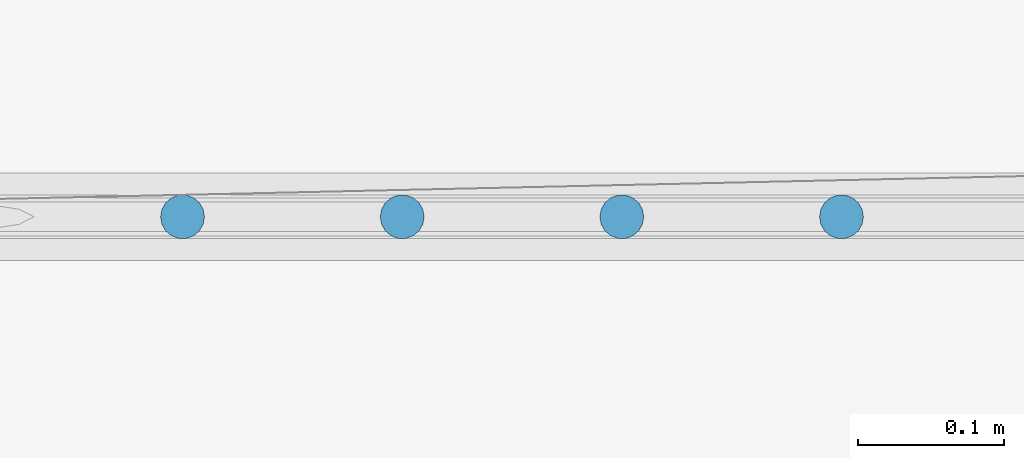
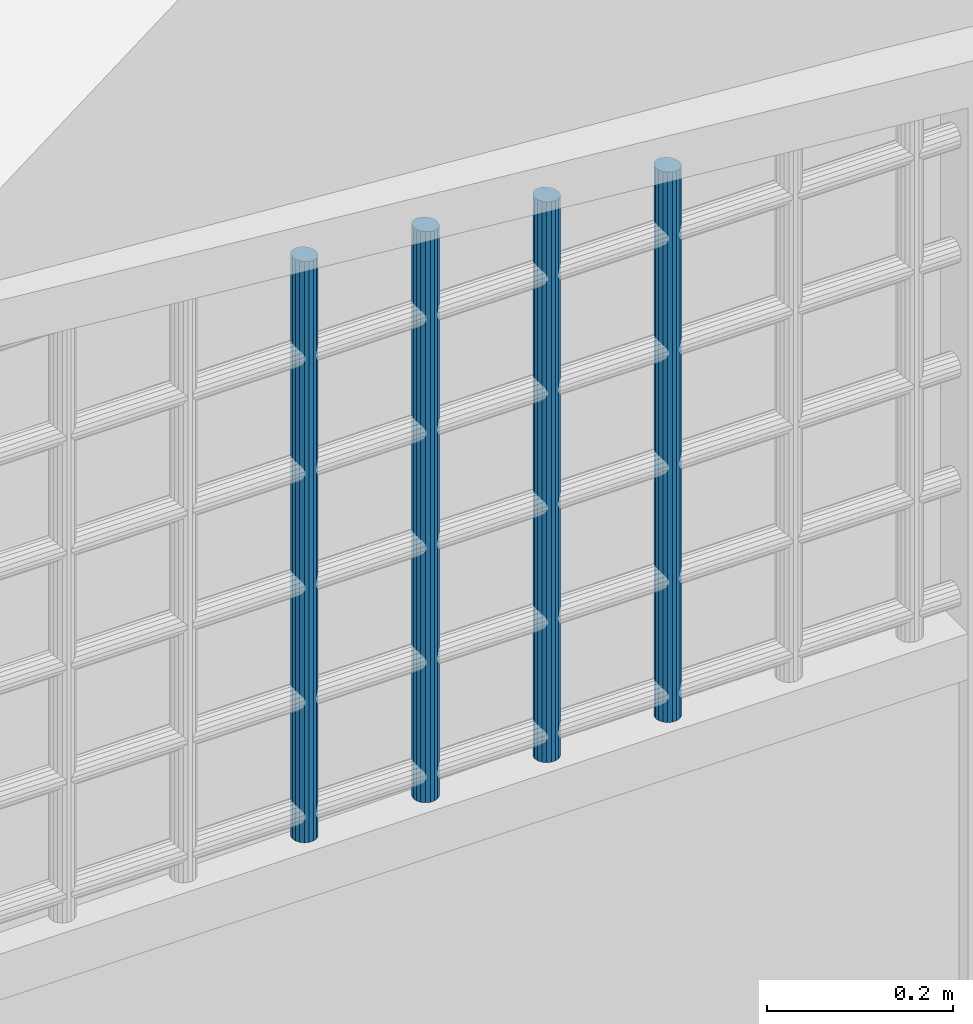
# One storey, part 57 of 133: 4 members, 1 element without a shape of its own.
"""IFC2X3 building model written with IfcOpenShell, lengths in centimetres."""

import ifcopenshell
import ifcopenshell.guid

model = None  # the IFC model being written
_history = None  # IfcOwnerHistory: only IFC2X3 demands one
_inside = {}  # id of a spatial element -> (the spatial element, [elements in it])
_under = {}  # id of a project, library or spatial element -> (it, [spatial elements below it])
_declared = {}  # id of a project -> (the project, [libraries it declares])
_typed = {}  # id of a type object -> (the type object, [elements of that type])
_made_of = {}  # id of a material, layer set ... -> (it, [elements and type objects made of it])


def new_model(schema):
    """Start an empty IFC model of exactly this schema.

    Asked for "IFC4X3", IfcOpenShell would pick the latest addendum, in which some entities
    have other attributes; the version numbers below select the first issue.
    IFC2X3 requires an IfcOwnerHistory on every rooted entity: one is made here for all.
    """
    global model, _history
    if schema == "IFC4X3":
        model = ifcopenshell.file(schema_version=(4, 3, 0, 0))
    else:
        model = ifcopenshell.file(schema=schema)
    _inside.clear()
    _under.clear()
    _declared.clear()
    _typed.clear()
    _made_of.clear()
    _history = None
    if model.schema == "IFC2X3":
        org = make("IfcOrganization", Name="unknown")
        user = make(
            "IfcPersonAndOrganization",
            ThePerson=make("IfcPerson", FamilyName="unknown"),
            TheOrganization=org,
        )
        app = make(
            "IfcApplication",
            ApplicationDeveloper=org,
            Version="unknown",
            ApplicationFullName="unknown",
            ApplicationIdentifier="unknown",
        )
        _history = make(
            "IfcOwnerHistory",
            OwningUser=user,
            OwningApplication=app,
            ChangeAction="ADDED",
            CreationDate=0,
        )
    return model


def make(cls, **values):
    """One entity of the class cls with the attributes given. An attribute that is None is left unset."""
    return model.create_entity(
        cls, **{name: value for name, value in values.items() if value is not None}
    )


def entity(cls, *values):
    """Any entity or typed value of the class cls, its attributes in the order of the schema. None: left unset."""
    e = model.create_entity(cls)
    for i, value in enumerate(values):
        if value is not None:
            e[i] = value
    return e


def rooted(cls, **values):
    """An entity with a GlobalId (a new one), such as an element, a storey or a relation."""
    return make(cls, GlobalId=ifcopenshell.guid.new(), OwnerHistory=_history, **values)


def si_unit(unit_type, name, prefix=None):
    """IfcSIUnit, for example si_unit("LENGTHUNIT", "METRE", prefix="MILLI")."""
    return make("IfcSIUnit", UnitType=unit_type, Prefix=prefix, Name=name)


def converted_unit(unit_type, name, factor, base, dimensions=None, offset=None):
    """IfcConversionBasedUnit, such as the inch: factor (a typed value) times the base unit."""
    return make(
        "IfcConversionBasedUnit"
        if offset is None
        else "IfcConversionBasedUnitWithOffset",
        ConversionOffset=offset,
        Dimensions=None
        if dimensions is None
        else entity("IfcDimensionalExponents", *dimensions),
        UnitType=unit_type,
        Name=name,
        ConversionFactor=make(
            "IfcMeasureWithUnit", ValueComponent=factor, UnitComponent=base
        ),
    )


def assignment(units):
    """IfcUnitAssignment: the units of a project."""
    return None if units is None else make("IfcUnitAssignment", Units=units)


def point(xyz):
    """IfcCartesianPoint."""
    return None if xyz is None else make("IfcCartesianPoint", Coordinates=xyz)


def direction(xyz):
    """IfcDirection."""
    return None if xyz is None else make("IfcDirection", DirectionRatios=xyz)


def frame(location, z_axis=None, x_axis=None):
    """IfcAxis2Placement3D, a coordinate frame: its origin and axes. An axis left out is left unset."""
    return make(
        "IfcAxis2Placement3D",
        Location=point(location),
        Axis=direction(z_axis),
        RefDirection=direction(x_axis),
    )


def origin():
    """The frame at (0, 0, 0) with its axes left unset."""
    return frame((0.0, 0.0, 0.0))


def origin_with_axes():
    """The frame at (0, 0, 0) with the z axis (0, 0, 1) and the x axis (1, 0, 0) written out."""
    return frame((0.0, 0.0, 0.0), z_axis=(0.0, 0.0, 1.0), x_axis=(1.0, 0.0, 0.0))


def place(relative_to, where):
    """IfcLocalPlacement: puts the frame where relative to a parent placement (None: the world)."""
    return make(
        "IfcLocalPlacement", PlacementRelTo=relative_to, RelativePlacement=where
    )


def context(
    kind, dimensions, precision=None, world=None, true_north=None, identifier=None
):
    """IfcGeometricRepresentationContext, for example the 3D "Model" context."""
    return make(
        "IfcGeometricRepresentationContext",
        ContextIdentifier=identifier,
        ContextType=kind,
        CoordinateSpaceDimension=dimensions,
        Precision=precision,
        WorldCoordinateSystem=world,
        TrueNorth=true_north,
    )


def subcontext(parent, identifier, kind, view, scale=None):
    """IfcGeometricRepresentationSubContext, for example "Body" below "Model"."""
    return make(
        "IfcGeometricRepresentationSubContext",
        ContextIdentifier=identifier,
        ContextType=kind,
        ParentContext=parent,
        TargetScale=scale,
        TargetView=view,
    )


def project(units=None, contexts=None):
    """IfcProject with its units and contexts."""
    return rooted(
        "IfcProject",
        Name="project",
        RepresentationContexts=contexts,
        UnitsInContext=assignment(units),
    )


def spatial(cls, under=None, at=None, **own):
    """A site, building, storey or space (cls), placed at a placement, below another one or the project."""
    s = rooted(cls, ObjectPlacement=at, **own)
    if under is not None:
        _under.setdefault(under.id(), (under, []))[1].append(s)
    return s


def faces_of(points, faces, orient=None, outer=None):
    """IfcFace entities. A face is a list of loops; a loop is a list of indices into points, from 0.

    orient and outer hold one flag for each loop. By default every Orientation is true, the
    first loop of a face is its IfcFaceOuterBound and the others are IfcFaceBound.
    """
    made = []
    for i, loops in enumerate(faces):
        bounds = []
        for j, loop in enumerate(loops):
            is_outer = j == 0 if outer is None else outer[i][j]
            bounds.append(
                make(
                    "IfcFaceOuterBound" if is_outer else "IfcFaceBound",
                    Bound=make("IfcPolyLoop", Polygon=[points[k] for k in loop]),
                    Orientation=True if orient is None else orient[i][j],
                )
            )
        made.append(make("IfcFace", Bounds=bounds))
    return made


def faceted_brep(points, faces, orient=None, outer=None, voids=None):
    """IfcFacetedBrep: a solid bounded by flat faces; with voids (closed shells), ...WithVoids."""
    shared = [point(p) for p in points]
    hull = make("IfcClosedShell", CfsFaces=faces_of(shared, faces, orient, outer))
    if voids is None:
        return make("IfcFacetedBrep", Outer=hull)
    return make(
        "IfcFacetedBrepWithVoids",
        Outer=hull,
        Voids=[
            make(cls, CfsFaces=faces_of(shared, fs, o, b)) for cls, fs, o, b in voids
        ],
    )


def shape(context_of_items, identifier, shape_type, items):
    """IfcShapeRepresentation: the items that make up one representation, for example the "Body"."""
    return make(
        "IfcShapeRepresentation",
        ContextOfItems=context_of_items,
        RepresentationIdentifier=identifier,
        RepresentationType=shape_type,
        Items=items,
    )


def material(Name=None, Category=None):
    """IfcMaterial."""
    return make("IfcMaterial", Name=Name, Category=Category)


def made_of(thing, what):
    """Note that an element or type object is made of a material, layer set ...; save() writes the relation."""
    if what is not None:
        _made_of.setdefault(what.id(), (what, []))[1].append(thing)
    return thing


def type_object(cls, material=None, **own):
    """A type object (cls), such as IfcWallType, which elements share."""
    return made_of(rooted(cls, **own), material)


def element(
    cls,
    number,
    at=None,
    inside=None,
    cuts=None,
    type_object=None,
    material=None,
    context=None,
    identifier="Body",
    shape_type=None,
    held_by="IfcProductDefinitionShape",
    body=None,
    shapes=None,
    **own,
):
    """One element of the class cls, such as IfcWall. Its Tag is "e" and its number.

    at: its placement. inside: the storey or other place that contains it. cuts: it is an
    opening in that element (IfcRelVoidsElement). A single representation is given by context,
    identifier, shape_type and body (its items); several are given by shapes. held_by: the class
    of the entity that holds the representations. save() writes the other relations.
    """
    e = rooted(cls, Tag="e%d" % number, ObjectPlacement=at, **own)
    if body is not None:
        shapes = [shape(context, identifier, shape_type, body)]
    if shapes is not None:
        e.Representation = make(held_by, Representations=shapes)
    if inside is not None:
        _inside.setdefault(inside.id(), (inside, []))[1].append(e)
    if cuts is not None:
        rooted(
            "IfcRelVoidsElement", RelatingBuildingElement=cuts, RelatedOpeningElement=e
        )
    if type_object is not None:
        _typed.setdefault(type_object.id(), (type_object, []))[1].append(e)
    return made_of(e, material)


def aggregate(whole, parts):
    """IfcRelAggregates: a whole, such as a stair, and the parts it consists of."""
    return rooted("IfcRelAggregates", RelatingObject=whole, RelatedObjects=parts)


def save(model, path):
    """Write the relations noted so far, then the file.

    IfcRelAggregates (storeys below a building ...), IfcRelContainedInSpatialStructure (elements
    in a storey), IfcRelDefinesByType, IfcRelAssociatesMaterial and IfcRelDeclares: one each for
    every whole, place, type object, material and project.
    """
    for whole, parts in _under.values():
        aggregate(whole, parts)
    for where, things in _inside.values():
        rooted(
            "IfcRelContainedInSpatialStructure",
            RelatedElements=things,
            RelatingStructure=where,
        )
    for kind, things in _typed.values():
        rooted("IfcRelDefinesByType", RelatedObjects=things, RelatingType=kind)
    for what, things in _made_of.values():
        rooted("IfcRelAssociatesMaterial", RelatedObjects=things, RelatingMaterial=what)
    for by, libraries in _declared.values():
        rooted("IfcRelDeclares", RelatingContext=by, RelatedDefinitions=libraries)
    model.write(path)


model = new_model("IFC2X3")

# Units and contexts
model_context = context("Model", 3, precision=0.0001, world=origin(), true_north=direction((0.225632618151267, 0.974212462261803, 0.0)))
body_context = subcontext(model_context, "Body", "Model", "MODEL_VIEW")
ifc_project = project(units=[si_unit("LENGTHUNIT", "METRE", prefix="CENTI"), si_unit("AREAUNIT", "SQUARE_METRE", prefix="CENTI"), si_unit("VOLUMEUNIT", "CUBIC_METRE", prefix="CENTI"), converted_unit("PLANEANGLEUNIT", "DEGREE", entity("IfcRatioMeasure", 0.0174532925), si_unit("PLANEANGLEUNIT", "RADIAN"), dimensions=[0, 0, 0, 0, 0, 0, 0])], contexts=[model_context])

# Site, building, storey
site_placement = place(None, origin_with_axes())
site = spatial("IfcSite", under=ifc_project, at=site_placement, Name="Default Site", CompositionType="ELEMENT")
building_placement = place(site_placement, origin_with_axes())
building = spatial("IfcBuilding", under=site, at=building_placement, Name="Default Building", CompositionType="ELEMENT")
storey_placement = place(building_placement, frame((0.0, 0.0, -291.400371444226), z_axis=(0.0, 0.0, 1.0), x_axis=(1.0, 0.0, 0.0)))
storey = spatial("IfcBuildingStorey", under=building, at=storey_placement, Name="Rez-de-Jardin", CompositionType="ELEMENT", Elevation=-291.400371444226)

# Assembly, members
building_element_proxy_type = type_object("IfcBuildingElementProxyType", Name="Type Object", PredefinedType="NOTDEFINED")
assembly_placement = place(storey_placement, frame((-151.298940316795, 206.642558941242, 0.0), z_axis=(0.0, 0.0, 1.0), x_axis=(1.0, 0.0, 0.0)))
assembly = element("IfcElementAssembly", 1, at=assembly_placement, inside=storey, type_object=building_element_proxy_type, Name="Panneau 76235", ObjectType="Precast panel", PredefinedType="USERDEFINED")
ifc_material = material(Name="Noyer 01")
member_1_placement = place(assembly_placement, frame((70.9095418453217, -2.48696978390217, 152.969837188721), z_axis=(0.0894003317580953, 6.59361238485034e-06, 0.995995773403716), x_axis=(0.499497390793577, -0.865154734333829, -0.0448290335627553)))
member_1 = element("IfcMember", 2, at=member_1_placement, material=ifc_material, Name="4294966763", context=body_context, shape_type="Brep", body=[
    faceted_brep([(-3.88578058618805e-14, 0.0, 2.22044604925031e-14), (-0.521468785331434, 5.55111522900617e-15, 3.97427528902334e-06), (-1.0121124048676, -0.178714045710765, 7.71362241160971e-06), (-1.41274736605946, -0.514578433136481, 1.07669856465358e-05), (-1.67505429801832, -0.967088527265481, 1.27661080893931e-05), (-1.76739386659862, -1.48166278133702, 1.34698565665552e-05), (-1.67862886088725, -1.99623628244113, 1.27933509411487e-05), (-1.4194664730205, -2.44874545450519, 1.0818194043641e-05), (-1.02116539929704, -2.78461079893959, 7.78261808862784e-06), (-0.531765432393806, -2.96331991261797, 4.0527492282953e-06), (-0.0102966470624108, -2.96331991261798, 7.84739614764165e-08), (0.480343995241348, -2.78461100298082, -3.66085047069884e-06), (0.880978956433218, -2.44874661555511, -6.71421370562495e-06), (1.14328588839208, -1.99623652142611, -8.71333614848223e-06), (1.23562545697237, -1.48166226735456, -9.41708462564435e-06), (1.14686342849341, -0.96708363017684, -8.74060169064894e-06), (0.887701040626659, -0.514574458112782, -6.76544479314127e-06), (0.489396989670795, -0.17871424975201, -3.72984614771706e-06), (3.89293254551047, 5.69377631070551, -75.6185636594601), (4.29160052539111, 5.35854402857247, -75.6266538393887), (4.55181087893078, 4.90784302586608, -75.6499431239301), (4.64217879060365, 4.39603519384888, -75.685622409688), (4.55180903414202, 3.88485967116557, -75.7293874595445), (4.29159856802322, 3.43596683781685, -75.7759600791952), (3.89293341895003, 3.10350118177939, -75.819722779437), (3.40389865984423, 2.92756307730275, -75.8553971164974), (2.88347784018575, 2.92937124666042, -75.8786804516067), (2.39444180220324, 3.10870828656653, -75.886764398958), (1.99577679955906, 3.4439457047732, -75.8786736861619), (1.73556644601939, 3.89464670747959, -75.8553844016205), (1.64519555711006, 4.40644940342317, -75.8197056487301), (1.73556531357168, 4.91762492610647, -75.7759405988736), (1.99577577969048, 5.36651775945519, -75.7293679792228), (2.39444092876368, 5.69898341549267, -75.6856052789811), (2.88347866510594, 5.87492665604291, -75.6499304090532), (3.40389948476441, 5.87311848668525, -75.6266470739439), (0.489396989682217, -0.17871424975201, -2.23121194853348e-06), (0.887697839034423, -0.514578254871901, -7.20440001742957e-06), (4.29159732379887, 5.35854023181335, -75.6266542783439), (0.887701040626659, -0.514574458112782, -6.76544475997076e-06), (1.14686345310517, -0.967083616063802, -1.27126717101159e-05), (4.55181090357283, 4.90784303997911, -75.6499431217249), (1.14686342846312, -0.96708363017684, -1.27148768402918e-05), (1.23562822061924, -1.48166179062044, -1.28886838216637e-05), (4.6421815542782, 4.396035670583, -75.6856222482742), (1.23562545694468, -1.48166226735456, -1.30500976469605e-05), (1.14328561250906, -1.99623647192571, -1.35122926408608e-05), (4.55180875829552, 3.88485972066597, -75.729387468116), (1.14328588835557, -1.99623652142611, -1.35037211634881e-05), (0.880978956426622, -2.44874661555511, -7.57995843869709e-06), (4.29159856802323, 3.43596683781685, -75.7759600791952), (4.55180903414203, 3.88485967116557, -75.7293874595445), (0.88097895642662, -2.44874661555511, -7.57995843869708e-06), (0.480344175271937, -2.78461121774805, -5.69254218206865e-06), (3.89293359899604, 3.10350096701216, -75.8197227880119), (0.480343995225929, -2.78461100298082, -5.68396723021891e-06), (-0.0102962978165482, -2.96332087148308, -1.1292356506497e-06), (3.40389900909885, 2.92756211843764, -75.8553971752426), (3.89293341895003, 3.10350118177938, -75.819722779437), (-0.0102966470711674, -2.96331991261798, -1.07049047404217e-06), (-0.53176543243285, -2.96331988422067, -1.06828515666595e-06), (2.88347784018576, 2.92937127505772, -75.8786804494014), (-0.531765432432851, -2.96331991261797, -1.07049047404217e-06), (-1.02116509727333, -2.7846099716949, 7.05693640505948e-07), (2.39444210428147, 3.10870911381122, -75.8867643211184), (2.88347784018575, 2.92937124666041, -75.8786804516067), (-1.02116539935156, -2.78461079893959, 6.27854013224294e-07), (-1.41946704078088, -2.4487461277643, 5.61711670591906e-06), (1.99577623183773, 3.44394503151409, -75.8786737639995), (-1.41946647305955, -2.44874545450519, 5.69495430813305e-06), (-1.67862888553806, -1.99623629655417, 1.16421812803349e-05), (1.73556642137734, 3.89464669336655, -75.8553844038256), (-1.67862886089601, -1.99623628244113, 1.16443864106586e-05), (-1.76739286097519, -1.48166260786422, 1.15054745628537e-05), (1.64519656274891, 4.40644957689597, -75.8197055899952), (-1.76739386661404, -1.48166278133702, 1.14467397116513e-05), (-1.67505402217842, -0.967088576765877, 1.19089347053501e-05), (1.73556558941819, 4.91762487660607, -75.7759405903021), (-1.67505429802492, -0.967088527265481, 1.19003632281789e-05), (-1.41274736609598, -0.51457843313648, 5.9766005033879e-06), (-1.41274736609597, -0.514578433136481, 5.97660050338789e-06), (-1.01211258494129, -0.178713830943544, 4.08918424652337e-06), (2.39444074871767, 5.69898363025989, -75.6856052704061), (-1.01211240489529, -0.178714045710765, 4.08060929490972e-06), (-0.521467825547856, -2.63513198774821e-06, -1.614421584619e-07), (2.8834796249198, 5.87492402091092, -75.6499305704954), (2.39444092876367, 5.69898341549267, -75.6856052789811), (-0.521468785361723, 5.55111512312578e-15, 4.44089209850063e-14), (-4.04135473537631e-14, -2.83973061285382e-08, -2.2052950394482e-09), (3.40389948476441, 5.87311845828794, -75.6266470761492), (0.489398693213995, -0.178709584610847, -1.7922452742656e-06), (3.89293424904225, 5.69378097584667, -75.6185632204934), (3.40389948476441, 5.87311848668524, -75.6266470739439)], [[[0, 1, 2, 3, 4, 5, 6, 7, 8, 9, 10, 11, 12, 13, 14, 15, 16, 17]], [[18, 19, 20, 21, 22, 23, 24, 25, 26, 27, 28, 29, 30, 31, 32, 33, 34, 35]], [[36, 37, 38, 18]], [[39, 40, 41, 19]], [[42, 43, 44, 20]], [[45, 46, 47, 21]], [[48, 49, 50, 51]], [[52, 53, 54, 23]], [[55, 56, 57, 58]], [[59, 60, 61, 25]], [[62, 63, 64, 65]], [[66, 67, 68, 27]], [[69, 70, 71, 28]], [[72, 73, 74, 29]], [[75, 76, 77, 30]], [[78, 79, 32, 31]], [[80, 81, 82, 32]], [[83, 84, 85, 86]], [[87, 88, 89, 34]], [[0, 90, 91, 92]]]),
])
member_2_placement = place(assembly_placement, frame((85.9095394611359, -2.48696978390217, 151.623380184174), z_axis=(0.0894003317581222, 6.59361240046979e-06, 0.995995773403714), x_axis=(0.499497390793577, -0.865154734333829, -0.0448290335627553)))
member_2 = element("IfcMember", 3, at=member_2_placement, material=ifc_material, Name="4294966762", context=body_context, shape_type="Brep", body=[
    faceted_brep([(-5.55111512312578e-15, 0.0, 0.0), (-0.5214687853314, 3.62174459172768e-23, 3.97427523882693e-06), (-1.01210942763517, -0.178708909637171, 7.71359964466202e-06), (-1.41274438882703, -0.51457329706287, 1.07669628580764e-05), (-1.67505132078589, -0.967083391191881, 1.27660852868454e-05), (-1.76739386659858, -1.48166278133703, 1.34698564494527e-05), (-1.67862886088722, -1.99623628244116, 1.2793350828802e-05), (-1.41946647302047, -2.4487454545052, 1.0818193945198e-05), (-1.02116593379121, -2.78461172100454, 7.78262208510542e-06), (-0.531765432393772, -2.96331991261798, 4.05274917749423e-06), (-0.0102966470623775, -2.96331991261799, 7.8473938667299e-08), (0.480343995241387, -2.78461100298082, -3.66085046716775e-06), (0.880981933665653, -2.4487414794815, -6.71423637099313e-06), (1.14328886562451, -1.99623138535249, -8.71335879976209e-06), (1.2356284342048, -1.48165713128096, -9.41710727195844e-06), (1.14686342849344, -0.967083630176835, -8.74060165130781e-06), (0.887701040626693, -0.514574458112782, -6.7654447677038e-06), (0.489399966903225, -0.178709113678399, -3.72986883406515e-06), (3.83257515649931, 5.58963513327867, -74.2774976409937), (4.23124015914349, 5.25439771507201, -74.2855883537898), (4.49145051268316, 4.80369671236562, -74.3088776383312), (4.58182140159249, 4.29189401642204, -74.3445563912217), (4.49145164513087, 3.78071849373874, -74.3883214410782), (4.23124117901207, 3.33182566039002, -74.4348940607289), (3.83257305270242, 2.99935486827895, -74.4786572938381), (3.34353829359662, 2.8234167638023, -74.5143316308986), (2.82311747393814, 2.82522493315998, -74.5376149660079), (2.33408143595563, 3.00456197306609, -74.5456989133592), (1.93541643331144, 3.33979939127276, -74.5376082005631), (1.67520607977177, 3.79050039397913, -74.5143189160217), (1.58483519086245, 4.30230308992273, -74.4786401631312), (1.67520792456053, 4.81348374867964, -74.4348745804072), (1.93541839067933, 5.26237658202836, -74.3883019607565), (2.33408353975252, 5.59484223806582, -74.3445392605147), (2.82311829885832, 5.77078034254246, -74.3088649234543), (3.3435391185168, 5.76897217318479, -74.285581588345), (0.489399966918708, -0.178709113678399, -1.69834450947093e-06), (0.887701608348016, -0.514573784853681, -6.6876071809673e-06), (4.23124072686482, 5.25439838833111, -74.2855882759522), (0.887701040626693, -0.514574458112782, -6.76544478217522e-06), (1.1468634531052, -0.967083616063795, -1.27126717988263e-05), (4.49145053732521, 4.80369672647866, -74.3088776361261), (4.2312401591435, 5.25439771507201, -74.2855883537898), (1.14686342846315, -0.967083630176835, -1.27148769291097e-05), (1.23562742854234, -1.48165730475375, -1.25759651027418e-05), (4.58182039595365, 4.29189384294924, -74.3445564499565), (1.23562843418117, -1.48165713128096, -1.25172302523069e-05), (1.14328858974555, -1.99623133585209, -1.29794252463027e-05), (4.49145136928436, 3.78071854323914, -74.3883214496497), (1.14328886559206, -1.99623138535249, -1.29708537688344e-05), (0.880981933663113, -2.4487414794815, -7.04709106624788e-06), (0.880981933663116, -2.4487414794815, -7.0470910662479e-06), (0.480342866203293, -2.78460965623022, -5.63019602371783e-06), (3.83257192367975, 2.99935621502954, -74.4786572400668), (4.23124117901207, 3.33182566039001, -74.4348940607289), (0.480343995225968, -2.78461100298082, -5.68396736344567e-06), (-0.0102962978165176, -2.96332087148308, -1.1292357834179e-06), (3.34353864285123, 2.8234158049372, -74.5143316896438), (3.83257305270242, 2.99935486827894, -74.4786572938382), (-0.0102966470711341, -2.96331991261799, -1.07049060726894e-06), (-0.531765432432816, -2.96331988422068, -1.06828529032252e-06), (2.82311747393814, 2.82522496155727, -74.5376149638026), (3.34353829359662, 2.82341676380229, -74.5143316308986), (-0.531765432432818, -2.96331991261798, -1.07049060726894e-06), (-1.02116563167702, -2.78461089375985, 1.25788883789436e-05), (2.33408173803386, 3.00456280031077, -74.5456988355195), (2.82311747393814, 2.82522493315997, -74.5376149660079), (-1.02116593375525, -2.78461172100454, 1.2501048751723e-05), (-1.41946704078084, -2.4487461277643, 5.61711657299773e-06), (1.93541586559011, 3.33979871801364, -74.5376082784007), (2.33408143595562, 3.00456197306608, -74.5456989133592), (-1.41946647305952, -2.4487454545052, 5.69495417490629e-06), (-1.67862888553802, -1.99623629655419, 1.16421811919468e-05), (1.67520605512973, 3.7905003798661, -74.5143189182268), (1.93541643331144, 3.33979939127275, -74.5376082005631), (-1.67862886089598, -1.99623628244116, 1.16443863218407e-05), (-1.76739286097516, -1.48166260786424, 1.15054744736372e-05), (1.58483619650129, 4.30230326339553, -74.4786401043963), (-1.767393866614, -1.48166278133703, 1.14467396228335e-05), (-1.67505305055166, -0.967083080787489, 1.23794810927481e-05), (1.67520619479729, 4.81348405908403, -74.4348746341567), (-1.67505132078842, -0.967083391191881, 1.2433230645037e-05), (-1.41274438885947, -0.514573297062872, 6.50946794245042e-06), (1.93541839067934, 5.26237658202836, -74.3883019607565), (-1.41274438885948, -0.51457329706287, 6.50946794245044e-06), (-1.01210960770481, -0.178708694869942, 4.62205168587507e-06), (2.33408335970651, 5.59484245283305, -74.3445392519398), (-1.0121094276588, -0.178708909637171, 4.61347673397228e-06), (-0.521469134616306, 9.58865094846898e-07, 5.87451761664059e-08), (2.82311794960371, 5.77078130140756, -74.3088648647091), (-0.52146878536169, 0.0, 0.0), (-7.10685701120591e-15, -2.83973133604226e-08, -2.20531780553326e-09), (3.3435391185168, 5.76897214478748, -74.2855815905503), (0.489399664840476, -0.178709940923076, -1.77618413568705e-06), (3.83257485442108, 5.58963430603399, -74.2774977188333)], [[[0, 1, 2, 3, 4, 5, 6, 7, 8, 9, 10, 11, 12, 13, 14, 15, 16, 17]], [[18, 19, 20, 21, 22, 23, 24, 25, 26, 27, 28, 29, 30, 31, 32, 33, 34, 35]], [[36, 37, 38, 18]], [[39, 40, 41, 42]], [[43, 44, 45, 20]], [[46, 47, 48, 21]], [[49, 50, 23, 22]], [[51, 52, 53, 54]], [[55, 56, 57, 58]], [[59, 60, 61, 62]], [[63, 64, 65, 66]], [[67, 68, 69, 70]], [[71, 72, 73, 74]], [[75, 76, 77, 29]], [[78, 79, 80, 30]], [[81, 82, 83, 31]], [[84, 85, 86, 32]], [[87, 88, 89, 33]], [[90, 91, 92, 34]], [[0, 93, 94, 35]]]),
])
member_3_placement = place(assembly_placement, frame((100.909543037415, -2.48696978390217, 150.276923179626), z_axis=(0.0894117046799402, -1.31048498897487e-05, 0.99599475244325), x_axis=(0.499496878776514, -0.86515384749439, -0.0448518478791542)))
member_3 = element("IfcMember", 4, at=member_3_placement, material=ifc_material, Name="4294966761", context=body_context, shape_type="Brep", body=[
    faceted_brep([(6.66133814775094e-14, -1.11022302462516e-14, 0.0), (-0.521469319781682, -1.11022303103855e-14, -7.89891555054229e-06), (-1.01211027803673, -0.178708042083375, -1.5330860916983e-05), (-1.41274881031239, -0.514576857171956, -2.13995016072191e-05), (-1.67505600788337, -0.967085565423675, -2.53727792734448e-05), (-1.76739648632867, -1.48165965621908, -2.67714994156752e-05), (-1.67863239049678, -1.99623331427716, -2.54269522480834e-05), (-1.4194713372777, -2.44874386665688, -2.15013305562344e-05), (-1.02117085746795, -2.78460991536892, -1.54681053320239e-05), (-0.531771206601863, -2.96331989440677, -8.05496257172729e-06), (-0.0103018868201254, -2.96331989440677, -1.56047021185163e-07), (0.480339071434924, -2.7846118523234, 7.27589834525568e-06), (0.880974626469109, -2.44874817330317, 1.33444939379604e-05), (1.14328182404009, -1.99623946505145, 1.7317771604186e-05), (1.23562527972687, -1.4816602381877, 1.87165368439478e-05), (1.14686118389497, -0.967086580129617, 1.73719896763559e-05), (0.887700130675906, -0.514576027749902, 1.34463679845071e-05), (0.489396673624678, -0.178715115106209, 7.41309766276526e-06), (3.7738821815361, 5.48547701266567, -72.9363467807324), (4.17254975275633, 5.1502440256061, -72.9444278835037), (4.43275983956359, 4.69954256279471, -72.9677112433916), (4.52313063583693, 4.18773970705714, -73.003387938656), (4.43275799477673, 3.67655920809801, -73.0471555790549), (4.17254779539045, 3.22766683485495, -73.0937341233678), (3.77388305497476, 2.89520188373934, -73.1375059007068), (3.28484879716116, 2.71926464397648, -73.1731913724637), (2.7644285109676, 2.72107373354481, -73.1964865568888), (2.27539297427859, 2.90041163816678, -73.2045816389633), (1.87672838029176, 3.2356497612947, -73.1965000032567), (1.6165182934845, 3.68635122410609, -73.1732166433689), (1.52614749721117, 4.19815407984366, -73.1375399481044), (1.61651716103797, 4.70932944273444, -73.0937728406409), (1.87672736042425, 5.1582218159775, -73.047194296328), (2.27539507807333, 5.49069190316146, -73.0034219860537), (2.76442933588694, 5.66662914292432, -72.9677365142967), (3.28484962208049, 5.66482005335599, -72.9444413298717), (0.489396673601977, -0.178715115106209, 8.9117317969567e-06), (0.887696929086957, -0.514579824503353, 1.30073397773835e-05), (4.17254655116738, 5.15024022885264, -72.9444283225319), (0.887700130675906, -0.514576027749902, 1.34463679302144e-05), (1.14686120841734, -0.967086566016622, 2.52731108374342e-05), (4.43275986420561, 4.69954257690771, -72.9677112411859), (1.14686118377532, -0.967086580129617, 2.52709051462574e-05), (1.23562427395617, -1.48166041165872, 2.74308468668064e-05), (4.52312963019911, 4.18773953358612, -73.0033879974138), (1.23562527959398, -1.4816602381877, 2.74896046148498e-05), (1.14328355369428, -1.9962397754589, 2.44543660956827e-05), (4.43275972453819, 3.67655889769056, -73.0471555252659), (1.14328182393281, -1.99623946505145, 2.44005771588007e-05), (0.880974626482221, -2.44874817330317, 1.24787490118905e-05), (0.880974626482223, -2.44874817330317, 1.24787490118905e-05), (0.480339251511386, -2.78461206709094, 5.2442105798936e-06), (3.77388323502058, 2.8952016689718, -73.1375059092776), (0.480339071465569, -2.7846118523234, 5.25278143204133e-06), (-0.0103015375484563, -2.9633208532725, -1.36374881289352e-06), (3.28484914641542, 2.71926368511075, -73.1731914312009), (3.77388305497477, 2.89520188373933, -73.1375059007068), (-0.0103018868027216, -2.96331989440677, -1.30501158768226e-06), (-0.531771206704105, -2.96331986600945, -1.30280629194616e-06), (2.76442851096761, 2.72107376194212, -73.1964865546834), (-0.531771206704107, -2.96331989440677, -1.30501160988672e-06), (-1.0211705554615, -2.78460908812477, -1.06718321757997e-05), (2.27539327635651, 2.90041246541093, -73.2045815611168), (-1.02117085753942, -2.78460991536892, -1.07496786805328e-05), (-1.4194719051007, -2.44874453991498, -1.48292300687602e-05), (1.87672781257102, 3.2356490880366, -73.1965000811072), (-1.41947133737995, -2.44874386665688, -1.47513795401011e-05), (-1.67863241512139, -1.99623332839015, -2.65781224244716e-05), (1.61651826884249, 3.6863512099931, -73.1732166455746), (1.87672838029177, 3.2356497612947, -73.1965000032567), (-1.67863239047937, -1.99623331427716, -2.65759167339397e-05), (-1.76739548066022, -1.48165948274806, -2.87358584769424e-05), (1.52614850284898, 4.19815425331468, -73.1375398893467), (-1.76739648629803, -1.48165965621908, -2.87946162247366e-05), (-1.67505573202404, -0.967085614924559, -2.6229946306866e-05), (1.61651743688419, 4.70932939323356, -73.0937728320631), (-1.67505600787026, -0.967085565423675, -2.62385240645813e-05), (-1.41274881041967, -0.514576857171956, -1.4316695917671e-05), (-1.01210914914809, -0.178709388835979, -6.61153867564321e-06), (2.27539620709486, 5.49069055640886, -73.0034220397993), (-1.01211027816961, -0.178708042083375, -6.55779304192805e-06), (-0.521469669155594, 9.58865716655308e-07, 5.87372250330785e-08), (2.76442898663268, 5.66663010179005, -72.9677364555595), (-0.52146931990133, -1.11022302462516e-14, 0.0), (6.50576411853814e-14, -2.83973244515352e-08, -2.20531780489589e-09), (3.28484962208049, 5.66482002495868, -72.944441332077), (0.489398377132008, -0.178710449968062, 9.35073725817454e-06), (3.77388388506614, 5.48548167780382, -72.936346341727)], [[[0, 1, 2, 3, 4, 5, 6, 7, 8, 9, 10, 11, 12, 13, 14, 15, 16, 17]], [[18, 19, 20, 21, 22, 23, 24, 25, 26, 27, 28, 29, 30, 31, 32, 33, 34, 35]], [[36, 37, 38, 18]], [[39, 40, 41, 19]], [[42, 43, 44, 20]], [[45, 46, 47, 21]], [[48, 49, 23, 22]], [[50, 51, 52, 23]], [[53, 54, 55, 56]], [[57, 58, 59, 25]], [[60, 61, 62, 26]], [[63, 64, 65, 27]], [[66, 67, 68, 69]], [[70, 71, 72, 29]], [[73, 74, 75, 30]], [[76, 77, 32, 31]], [[77, 78, 79, 32]], [[80, 81, 82, 33]], [[83, 84, 85, 34]], [[0, 86, 87, 35]]]),
])
member_4_placement = place(assembly_placement, frame((115.909540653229, -2.48696978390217, 148.930478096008), z_axis=(0.089400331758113, 6.5936123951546e-06, 0.995995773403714), x_axis=(0.499497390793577, -0.865154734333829, -0.0448290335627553)))
member_4 = element("IfcMember", 5, at=member_4_placement, material=ifc_material, Name="4294966760", context=body_context, shape_type="Brep", body=[
    faceted_brep([(2.22044604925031e-14, 0.0, 2.22044604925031e-14), (-0.521468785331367, 1.10308300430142e-22, 3.97427527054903e-06), (-1.01210942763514, -0.178708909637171, 7.71359968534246e-06), (-1.4127473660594, -0.514578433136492, 1.07669855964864e-05), (-1.67505429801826, -0.967088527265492, 1.27661080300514e-05), (-1.76739088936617, -1.48165764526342, 1.34698338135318e-05), (-1.67863183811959, -1.99624141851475, 1.27933735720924e-05), (-1.41946945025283, -2.44875059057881, 1.08182166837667e-05), (-1.02116539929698, -2.78461079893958, 7.78261805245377e-06), (-0.531768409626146, -2.96332504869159, 4.05277189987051e-06), (-0.0102996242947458, -2.96332504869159, 7.84966515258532e-08), (0.480346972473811, -2.78460586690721, -3.66087314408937e-06), (0.880978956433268, -2.44874661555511, -6.71421367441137e-06), (1.14328588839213, -1.99623652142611, -8.71333610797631e-06), (1.23562843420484, -1.48165713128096, -9.41710727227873e-06), (1.14686342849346, -0.967083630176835, -8.74060165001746e-06), (0.887701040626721, -0.514574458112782, -6.76544476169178e-06), (0.489397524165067, -0.178713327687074, -3.72985020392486e-06), (3.71185198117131, 5.38133829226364, -71.5953790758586), (4.11051996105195, 5.04610601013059, -71.6034692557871), (4.37073031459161, 4.5954050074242, -71.6267585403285), (4.46110120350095, 4.0836023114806, -71.662437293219), (4.37072846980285, 3.5724216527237, -71.706202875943), (4.11051800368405, 3.12352881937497, -71.7527754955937), (3.71185583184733, 2.79106829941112, -71.796537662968), (3.22281511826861, 2.61511992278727, -71.8322130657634), (2.70239429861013, 2.61692809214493, -71.8554964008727), (2.21336123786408, 2.79627026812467, -71.8635798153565), (1.81469325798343, 3.13150255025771, -71.8554896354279), (1.55448290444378, 3.5822035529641, -71.8322003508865), (1.46411797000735, 4.09401652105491, -71.796520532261), (1.55448474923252, 4.60518690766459, -71.752756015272), (1.81469521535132, 5.05407974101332, -71.7061833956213), (2.21336334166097, 5.38655053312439, -71.662420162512), (2.70239810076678, 5.56248863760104, -71.6267458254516), (3.22281892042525, 5.56068046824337, -71.6034624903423), (0.489397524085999, -0.178713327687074, -1.41044068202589e-05), (0.887697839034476, -0.51457825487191, -7.20440001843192e-06), (4.11051675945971, 5.04610221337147, -71.6034696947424), (3.71185198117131, 5.38133829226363, -71.5953790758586), (0.887701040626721, -0.514574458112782, -6.76544475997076e-06), (1.14686345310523, -0.967083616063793, -1.27126717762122e-05), (4.37073033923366, 4.59540502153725, -71.6267585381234), (1.14686342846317, -0.967083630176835, -1.27148769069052e-05), (1.23562742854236, -1.48165730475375, -1.25759650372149e-05), (4.4611001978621, 4.08360213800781, -71.6624373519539), (4.37073031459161, 4.5954050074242, -71.6267585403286), (1.23562843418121, -1.48165713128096, -1.25172301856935e-05), (1.14328761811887, -1.9962368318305, -1.34499716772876e-05), (4.37073019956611, 3.57242134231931, -71.7062028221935), (4.46110120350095, 4.08360231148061, -71.662437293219), (1.14328588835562, -1.99623652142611, -1.35037212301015e-05), (0.880978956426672, -2.44874661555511, -7.57995850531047e-06), (4.11051800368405, 3.12352881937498, -71.7527754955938), (0.88097895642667, -2.44874661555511, -7.57995850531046e-06), (0.480348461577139, -2.78460764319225, -5.22202103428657e-06), (3.71185732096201, 2.79106652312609, -71.7965377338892), (0.480346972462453, -2.78460586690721, -5.15109979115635e-06), (-0.0103018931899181, -2.96331881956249, -1.22172848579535e-06), (3.22281284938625, 2.61512615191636, -71.8322126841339), (3.71185583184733, 2.79106829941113, -71.796537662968), (-0.0102996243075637, -2.96332504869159, -1.60335806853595e-06), (-0.531768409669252, -2.96332502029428, -1.60115272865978e-06), (2.70239429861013, 2.61692812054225, -71.8554963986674), (-0.531768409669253, -2.96332504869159, -1.60335804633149e-06), (-1.02116710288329, -2.78461546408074, 1.88887272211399e-07), (2.2133595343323, 2.79626560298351, -71.8635802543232), (2.70239429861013, 2.61692809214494, -71.8554964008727), (-1.02116539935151, -2.78461079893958, 6.27853946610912e-07), (-1.41946624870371, -2.44874679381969, 5.60104199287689e-06), (1.81469645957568, 3.13150634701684, -71.8554891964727), (2.21336123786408, 2.79627026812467, -71.8635798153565), (-1.41946945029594, -2.44875059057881, 5.16208673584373e-06), (-1.67863186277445, -1.99624143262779, 1.11093137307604e-05), (1.55448287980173, 3.58220353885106, -71.8322003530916), (1.81469325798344, 3.13150255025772, -71.8554896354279), (-1.67863183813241, -1.99624141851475, 1.11115188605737e-05), (-1.76739742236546, -1.48165877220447, 1.15980446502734e-05), (1.46411143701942, 4.09401539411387, -71.7965209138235), (1.55448290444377, 3.5822035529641, -71.8322003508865), (-1.76739088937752, -1.48165764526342, 1.19796071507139e-05), (-1.67505201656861, -0.967088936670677, 1.19712557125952e-05), (1.55448703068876, 4.60518649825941, -71.7527559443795), (-1.67505429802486, -0.967088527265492, 1.19003632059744e-05), (-1.41274736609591, -0.514578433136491, 5.97660048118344e-06), (1.55448474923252, 4.6051869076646, -71.752756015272), (-1.41274736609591, -0.514578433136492, 5.97660048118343e-06), (-1.01210829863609, -0.178710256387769, 4.55970541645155e-06), (2.21336447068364, 5.38654918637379, -71.6624202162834), (-1.01210942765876, -0.178708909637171, 4.61347675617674e-06), (-0.521469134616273, 9.58865094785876e-07, 5.87451983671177e-08), (2.70239775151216, 5.56248959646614, -71.6267457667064), (-0.521468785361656, 0.0, 2.22044604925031e-14), (2.06487186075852e-14, -2.83973133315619e-08, -2.20529559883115e-09), (3.22281892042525, 5.56068043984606, -71.6034624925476), (0.489399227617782, -0.1787086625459, -1.36654401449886e-05), (3.71185368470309, 5.38134295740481, -71.5953786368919), (3.22281892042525, 5.56068046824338, -71.6034624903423)], [[[0, 1, 2, 3, 4, 5, 6, 7, 8, 9, 10, 11, 12, 13, 14, 15, 16, 17]], [[18, 19, 20, 21, 22, 23, 24, 25, 26, 27, 28, 29, 30, 31, 32, 33, 34, 35]], [[36, 37, 38, 39]], [[40, 41, 42, 19]], [[43, 44, 45, 46]], [[47, 48, 49, 50]], [[51, 52, 53, 22]], [[54, 55, 56, 53]], [[57, 58, 59, 60]], [[61, 62, 63, 25]], [[64, 65, 66, 67]], [[68, 69, 70, 71]], [[72, 73, 74, 75]], [[76, 77, 78, 79]], [[80, 81, 82, 30]], [[83, 84, 32, 85]], [[86, 87, 88, 32]], [[89, 90, 91, 33]], [[92, 93, 94, 34]], [[0, 95, 96, 97]]]),
])
aggregate(assembly, [member_1, member_2, member_3, member_4])

save(model, "model.ifc")
